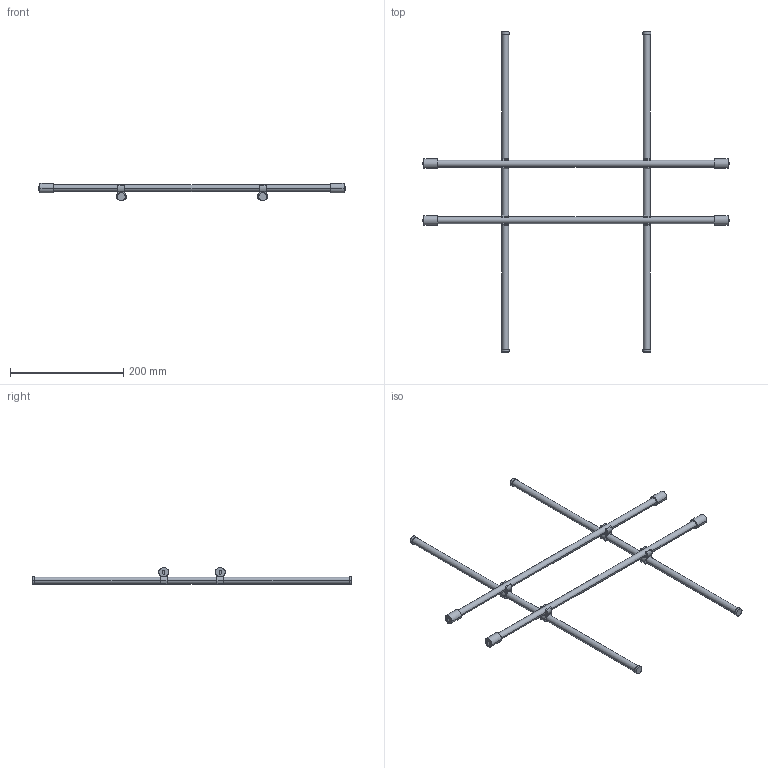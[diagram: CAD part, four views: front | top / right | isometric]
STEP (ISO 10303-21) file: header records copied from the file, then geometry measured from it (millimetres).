
FILE_DESCRIPTION (( 'STEP AP214' ), '1' );
FILE_NAME ('Magic-Classic_NL-600-KAB 600.step', '2010-09-16T12:49:24', ( 'grass' ), ( '' ), 'SwSTEP 2.0', 'SolidWorks 2010', '' );
FILE_SCHEMA (( 'AUTOMOTIVE_DESIGN' ));
Length unit declared in the file: millimetre
Products named in the file (1): Magic-Classic_NL-600-KAB 600
Bounding box: 543 x 565 x 30.45 mm (x, y, z)
Volume: 269821.4 mm3; surface area: 89623.1 mm2
Topology: 1 solids, 1 shells, 140 faces, 384 edges, 256 vertices
Faces by surface type: plane 76, cylinder 64
Entity records: 4546 total; most frequent: DIRECTION 826, CARTESIAN_POINT 781, ORIENTED_EDGE 768, EDGE_CURVE 384, AXIS2_PLACEMENT_3D 301, VERTEX_POINT 256, VECTOR 224, LINE 224
